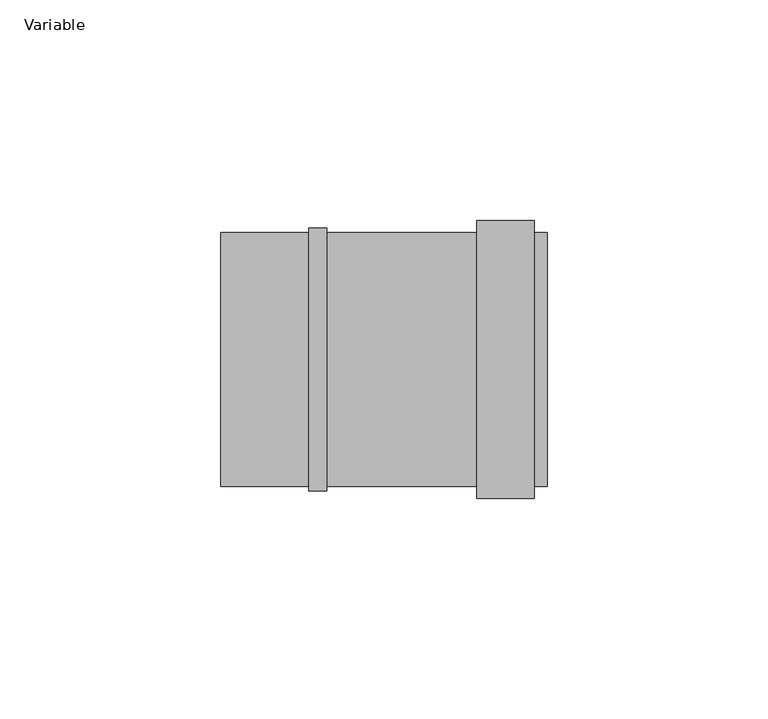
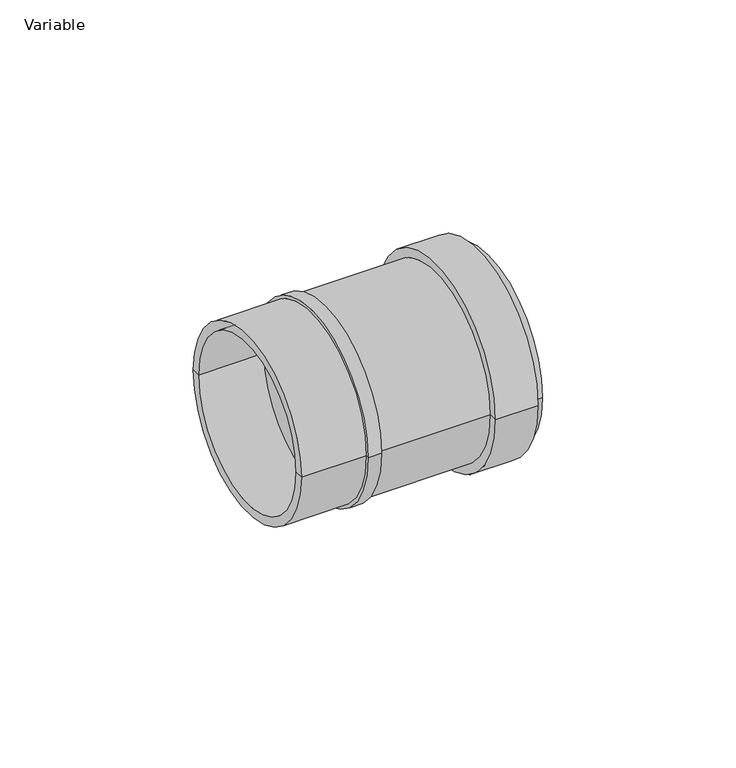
"""IFC4 building model written with IfcOpenShell, lengths in millimetres: pipe fitting geometry, AliaxisFR_Friaphon_MixedCoupling_FR : Variable."""

from ifc_helpers import new_model, si_unit, frame, origin, place, context, project, spatial, polyline, circle_curve, source, transform, mapped, element, save
from ifc_brep_helpers import plane_surface, cylinder_surface, revolved_surface, advanced_brep


def variable_cc028437(model_context):
    return source(origin(), model_context, "Body", "AdvancedBrep", [
        advanced_brep(
        [(52.5, -28.75, 0.0), (52.5, 28.75, 0.0), (52.5, 26.0, 0.0), (52.5, -26.0, 0.0), (49.5, -28.75, 0.0), (49.5, 28.75, 0.0), (49.5, -31.5, 0.0), (49.5, 31.5, 0.0), (36.5, -31.5, 0.0), (36.5, 31.5, 0.0), (36.5, -28.75, 0.0), (36.5, 28.75, 0.0), (2.5, -28.75, 0.0), (2.5, 28.75, 0.0), (-21.5, -26.0, 0.0), (-21.5, 26.0, 0.0), (-21.5, 28.75, 0.0), (-21.5, -28.75, 0.0), (-1.5, -26.0, 0.0), (-1.5, 26.0, 0.0), (-1.5, 0.0, 0.0), (1.5, 26.0, 0.0), (1.5, -26.0, 0.0), (2.5, -29.75, 0.0), (2.5, 29.75, 0.0), (-1.5, -29.75, 0.0), (-1.5, 29.75, 0.0), (-1.5, -28.75, 0.0), (-1.5, 28.75, 0.0), (1.5, 0.0, 0.0)],
        [
            (0, 1, circle_curve(frame((52.5, 0.0, 0.0), z_axis=(1.0, 0.0, 0.0), x_axis=(0.0, 1.0, 0.0)), 28.75)),
            (1, 2),
            (2, 3, circle_curve(frame((52.5, 0.0, 0.0), z_axis=(-1.0, 0.0, 0.0), x_axis=(0.0, 1.0, 0.0)), 26.0)),
            (3, 0),
            (1, 0, circle_curve(frame((52.5, 0.0, 0.0), z_axis=(1.0, 0.0, 0.0), x_axis=(0.0, 1.0, 0.0)), 28.75)),
            (3, 2, circle_curve(frame((52.5, 0.0, 0.0), z_axis=(-1.0, 0.0, 0.0), x_axis=(0.0, 1.0, 0.0)), 26.0)),
            (4, 5, circle_curve(frame((49.5, 0.0, 0.0), z_axis=(1.0, 0.0, 0.0), x_axis=(0.0, 1.0, 0.0)), 28.75)),
            (5, 1),
            (0, 4),
            (5, 4, circle_curve(frame((49.5, 0.0, 0.0), z_axis=(1.0, 0.0, 0.0), x_axis=(0.0, 1.0, 0.0)), 28.75)),
            (6, 7, circle_curve(frame((49.5, 0.0, 0.0), z_axis=(1.0, 0.0, 0.0), x_axis=(0.0, 1.0, 0.0)), 31.5)),
            (7, 5),
            (4, 6),
            (7, 6, circle_curve(frame((49.5, 0.0, 0.0), z_axis=(1.0, 0.0, 0.0), x_axis=(0.0, 1.0, 0.0)), 31.5)),
            (8, 9, circle_curve(frame((36.5, 0.0, 0.0), z_axis=(1.0, 0.0, 0.0), x_axis=(0.0, 1.0, 0.0)), 31.5)),
            (9, 7),
            (6, 8),
            (9, 8, circle_curve(frame((36.5, 0.0, 0.0), z_axis=(1.0, 0.0, 0.0), x_axis=(0.0, 1.0, 0.0)), 31.5)),
            (10, 11, circle_curve(frame((36.5, 0.0, 0.0), z_axis=(1.0, 0.0, 0.0), x_axis=(0.0, 1.0, 0.0)), 28.75)),
            (11, 9),
            (8, 10),
            (11, 10, circle_curve(frame((36.5, 0.0, 0.0), z_axis=(1.0, 0.0, 0.0), x_axis=(0.0, 1.0, 0.0)), 28.75)),
            (12, 13, circle_curve(frame((2.5, 0.0, 0.0), z_axis=(1.0, 0.0, 0.0), x_axis=(0.0, 1.0, 0.0)), 28.75)),
            (13, 11),
            (10, 12),
            (13, 12, circle_curve(frame((2.5, 0.0, 0.0), z_axis=(1.0, 0.0, 0.0), x_axis=(0.0, 1.0, 0.0)), 28.75)),
            (14, 15, circle_curve(frame((-21.5, 0.0, 0.0), z_axis=(1.0, 0.0, 0.0), x_axis=(0.0, 1.0, 0.0)), 26.0)),
            (15, 16),
            (16, 17, circle_curve(frame((-21.5, 0.0, 0.0), z_axis=(-1.0, 0.0, 0.0), x_axis=(0.0, 1.0, 0.0)), 28.75)),
            (17, 14),
            (15, 14, circle_curve(frame((-21.5, 0.0, 0.0), z_axis=(1.0, 0.0, 0.0), x_axis=(0.0, 1.0, 0.0)), 26.0)),
            (17, 16, circle_curve(frame((-21.5, 0.0, 0.0), z_axis=(-1.0, 0.0, 0.0), x_axis=(0.0, 1.0, 0.0)), 28.75)),
            (18, 19, circle_curve(frame((-1.5, 0.0, 0.0), z_axis=(1.0, 0.0, 0.0), x_axis=(0.0, 1.0, 0.0)), 26.0)),
            (19, 15),
            (14, 18),
            (19, 18, circle_curve(frame((-1.5, 0.0, 0.0), z_axis=(1.0, 0.0, 0.0), x_axis=(0.0, 1.0, 0.0)), 26.0)),
            (20, 19),
            (18, 20),
            (2, 21),
            (21, 22, circle_curve(frame((1.5, 0.0, 0.0), z_axis=(-1.0, 0.0, 0.0), x_axis=(0.0, 1.0, 0.0)), 26.0)),
            (22, 3),
            (22, 21, circle_curve(frame((1.5, 0.0, 0.0), z_axis=(-1.0, 0.0, 0.0), x_axis=(0.0, 1.0, 0.0)), 26.0)),
            (23, 24, circle_curve(frame((2.5, 0.0, 0.0), z_axis=(1.0, 0.0, 0.0), x_axis=(0.0, 1.0, 0.0)), 29.75)),
            (24, 13),
            (12, 23),
            (24, 23, circle_curve(frame((2.5, 0.0, 0.0), z_axis=(1.0, 0.0, 0.0), x_axis=(0.0, 1.0, 0.0)), 29.75)),
            (25, 26, circle_curve(frame((-1.5, 0.0, 0.0), z_axis=(1.0, 0.0, 0.0), x_axis=(0.0, 1.0, 0.0)), 29.75)),
            (26, 24),
            (23, 25),
            (26, 25, circle_curve(frame((-1.5, 0.0, 0.0), z_axis=(1.0, 0.0, 0.0), x_axis=(0.0, 1.0, 0.0)), 29.75)),
            (27, 28, circle_curve(frame((-1.5, 0.0, 0.0), z_axis=(1.0, 0.0, 0.0), x_axis=(0.0, 1.0, 0.0)), 28.75)),
            (28, 26),
            (25, 27),
            (28, 27, circle_curve(frame((-1.5, 0.0, 0.0), z_axis=(1.0, 0.0, 0.0), x_axis=(0.0, 1.0, 0.0)), 28.75)),
            (16, 28),
            (27, 17),
            (21, 29),
            (29, 22),
        ],
        [
            plane_surface(frame((52.5, 0.0, 0.0), z_axis=(1.0, 0.0, 0.0), x_axis=(0.0, 1.0, 0.0))),
            cylinder_surface(frame((2000.5, 0.0, 0.0), z_axis=(-1.0, 0.0, 0.0), x_axis=(0.0, 1.0, 0.0)), 28.75),
            plane_surface(frame((49.5, 0.0, 0.0), z_axis=(1.0, 0.0, 0.0), x_axis=(0.0, 1.0, 0.0))),
            cylinder_surface(frame((2000.5, 0.0, 0.0), z_axis=(-1.0, 0.0, 0.0), x_axis=(0.0, 1.0, 0.0)), 31.5),
            plane_surface(frame((36.5, 0.0, 0.0), z_axis=(-1.0, 0.0, 0.0), x_axis=(0.0, 1.0, 0.0))),
            plane_surface(frame((-21.5, 0.0, 0.0), z_axis=(-1.0, 0.0, 0.0), x_axis=(0.0, 1.0, 0.0))),
            revolved_surface(polyline([(-21.5, 26.0, 0.0), (-1.5, 26.0, 0.0)]), (2000.5, 0.0, 0.0), (-1.0, 0.0, 0.0)),
            plane_surface(frame((-1.5, 0.0, 0.0), z_axis=(-1.0, 0.0, 0.0), x_axis=(0.0, 1.0, 0.0))),
            revolved_surface(polyline([(1.5, 26.0, 0.0), (52.5, 26.0, 0.0)]), (2000.5, 0.0, 0.0), (-1.0, 0.0, 0.0)),
            plane_surface(frame((2.5, 0.0, 0.0), z_axis=(1.0, 0.0, 0.0), x_axis=(0.0, 1.0, 0.0))),
            cylinder_surface(frame((2000.5, 0.0, 0.0), z_axis=(-1.0, 0.0, 0.0), x_axis=(0.0, 1.0, 0.0)), 29.75),
            plane_surface(frame((1.5, 0.0, 0.0), z_axis=(1.0, 0.0, 0.0), x_axis=(0.0, 1.0, 0.0))),
        ],
        [
            (0, [[1, 2, 3, 4]]),
            (0, [[5, -4, 6, -2]]),
            (1, [[7, 8, -1, 9]]),
            (1, [[10, -9, -5, -8]]),
            (2, [[11, 12, -7, 13]]),
            (2, [[14, -13, -10, -12]]),
            (3, [[15, 16, -11, 17]]),
            (3, [[18, -17, -14, -16]]),
            (4, [[19, 20, -15, 21]]),
            (4, [[22, -21, -18, -20]]),
            (1, [[23, 24, -19, 25]]),
            (1, [[26, -25, -22, -24]]),
            (5, [[27, 28, 29, 30]]),
            (5, [[31, -30, 32, -28]]),
            (6, [[33, 34, -27, 35]]),
            (6, [[36, -35, -31, -34]]),
            (7, [[37, -33, 38]]),
            (7, [[-38, -36, -37]]),
            (8, [[-3, 39, 40, 41]]),
            (8, [[-6, -41, 42, -39]]),
            (9, [[43, 44, -23, 45]]),
            (9, [[46, -45, -26, -44]]),
            (10, [[47, 48, -43, 49]]),
            (10, [[50, -49, -46, -48]]),
            (7, [[51, 52, -47, 53]]),
            (7, [[54, -53, -50, -52]]),
            (1, [[-29, 55, -51, 56]]),
            (1, [[-32, -56, -54, -55]]),
            (11, [[-40, 57, 58]]),
            (11, [[-42, -58, -57]]),
        ],
    ),
    ])


if __name__ == "__main__":
    model = new_model("IFC4")
    model_context = context("Model", 3, world=origin())
    ifc_project = project(units=[si_unit("LENGTHUNIT", "METRE", prefix="MILLI")], contexts=[model_context])
    site = spatial("IfcSite", under=ifc_project)
    building = spatial("IfcBuilding", under=site)
    placement = place(None, origin())
    variable_shape = variable_cc028437(model_context)
    element("IfcPipeFitting", 1, ObjectType="AliaxisFR_Friaphon_MixedCoupling_FR : Variable", at=placement, inside=building, context=model_context, shape_type="MappedRepresentation", body=[
        mapped(variable_shape, transform((0.0, 0.0, 0.0), x_axis=(1.0, 0.0, 0.0), y_axis=(0.0, 1.0, 0.0), z_axis=(0.0, 0.0, 1.0))),
    ])
    save(model, "model.ifc")
